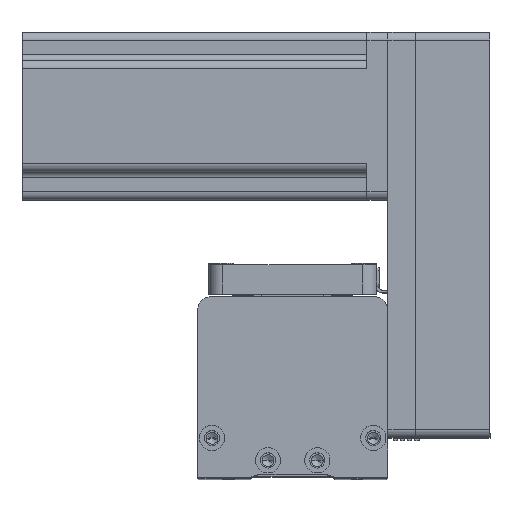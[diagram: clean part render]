
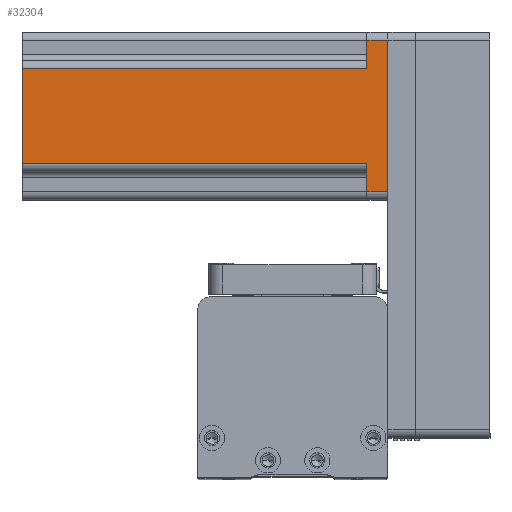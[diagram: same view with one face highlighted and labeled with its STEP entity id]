
A CAD part, top view. The second image highlights one B-rep face of the part: STEP entity #32304.
In plain terms, the highlighted planar face has unit normal (0, 0, 1) as drawn and (0, -1, 0) by its records, which use the part's own axes.
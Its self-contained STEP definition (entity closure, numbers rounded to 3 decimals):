
#336 = VERTEX_POINT ( 'NONE', #8669 ) ;
#579 = CARTESIAN_POINT ( 'NONE',  ( 27., -30., 0. ) ) ;
#1299 = LINE ( 'NONE', #27244, #35634 ) ;
#1680 = CARTESIAN_POINT ( 'NONE',  ( -17., -30., 130.7 ) ) ;
#1693 = EDGE_CURVE ( 'NONE', #336, #24647, #36500, .T. ) ;
#1801 = CARTESIAN_POINT ( 'NONE',  ( 30., -30., 130.7 ) ) ;
#2800 = CARTESIAN_POINT ( 'NONE',  ( 27., -30., 130.7 ) ) ;
#2826 = CARTESIAN_POINT ( 'NONE',  ( 17., -30., 7.5 ) ) ;
#3917 = DIRECTION ( 'NONE',  ( 1., 0., 0. ) ) ;
#4581 = VERTEX_POINT ( 'NONE', #23914 ) ;
#5163 = DIRECTION ( 'NONE',  ( -1., 0., 0. ) ) ;
#5700 = ORIENTED_EDGE ( 'NONE', *, *, #11654, .T. ) ;
#5929 = AXIS2_PLACEMENT_3D ( 'NONE', #1801, #25096, #5163 ) ;
#6502 = DIRECTION ( 'NONE',  ( 1., 0., 0. ) ) ;
#6592 = ORIENTED_EDGE ( 'NONE', *, *, #1693, .T. ) ;
#7592 = CARTESIAN_POINT ( 'NONE',  ( -20., -30., 7.5 ) ) ;
#8088 = LINE ( 'NONE', #7592, #42400 ) ;
#8669 = CARTESIAN_POINT ( 'NONE',  ( -27., -30., 0. ) ) ;
#8733 = VERTEX_POINT ( 'NONE', #2826 ) ;
#10613 = CARTESIAN_POINT ( 'NONE',  ( 17., -30., 130.7 ) ) ;
#11654 = EDGE_CURVE ( 'NONE', #16118, #4581, #1299, .T. ) ;
#11720 = EDGE_CURVE ( 'NONE', #33509, #4581, #8088, .T. ) ;
#12543 = EDGE_CURVE ( 'NONE', #8733, #23540, #20982, .T. ) ;
#14689 = EDGE_CURVE ( 'NONE', #20108, #8733, #28403, .T. ) ;
#15082 = CARTESIAN_POINT ( 'NONE',  ( 30., -30., 0. ) ) ;
#15724 = LINE ( 'NONE', #35407, #24606 ) ;
#15772 = LINE ( 'NONE', #23687, #33507 ) ;
#15820 = EDGE_LOOP ( 'NONE', ( #22357, #5700, #23764, #34482, #6592, #39318, #36860, #19700 ) ) ;
#16118 = VERTEX_POINT ( 'NONE', #1680 ) ;
#16839 = EDGE_CURVE ( 'NONE', #24647, #20108, #27621, .T. ) ;
#18740 = EDGE_CURVE ( 'NONE', #16118, #23540, #15772, .T. ) ;
#18804 = VECTOR ( 'NONE', #6502, 1000. ) ;
#19004 = EDGE_CURVE ( 'NONE', #33509, #336, #15724, .T. ) ;
#19508 = VECTOR ( 'NONE', #29133, 1000. ) ;
#19700 = ORIENTED_EDGE ( 'NONE', *, *, #12543, .T. ) ;
#20108 = VERTEX_POINT ( 'NONE', #21373 ) ;
#20982 = LINE ( 'NONE', #25192, #37637 ) ;
#21373 = CARTESIAN_POINT ( 'NONE',  ( 27., -30., 7.5 ) ) ;
#22357 = ORIENTED_EDGE ( 'NONE', *, *, #18740, .F. ) ;
#22438 = CARTESIAN_POINT ( 'NONE',  ( -27., -30., 7.5 ) ) ;
#23540 = VERTEX_POINT ( 'NONE', #10613 ) ;
#23687 = CARTESIAN_POINT ( 'NONE',  ( 30., -30., 130.7 ) ) ;
#23764 = ORIENTED_EDGE ( 'NONE', *, *, #11720, .F. ) ;
#23914 = CARTESIAN_POINT ( 'NONE',  ( -17., -30., 7.5 ) ) ;
#24193 = DIRECTION ( 'NONE',  ( 1., 0., 0. ) ) ;
#24606 = VECTOR ( 'NONE', #38762, 1000. ) ;
#24647 = VERTEX_POINT ( 'NONE', #579 ) ;
#25096 = DIRECTION ( 'NONE',  ( 0., 1., 0. ) ) ;
#25192 = CARTESIAN_POINT ( 'NONE',  ( 17., -30., 130.7 ) ) ;
#26041 = DIRECTION ( 'NONE',  ( 0., 0., 1. ) ) ;
#27244 = CARTESIAN_POINT ( 'NONE',  ( -17., -30., 130.7 ) ) ;
#27621 = LINE ( 'NONE', #2800, #28667 ) ;
#28403 = LINE ( 'NONE', #42180, #19508 ) ;
#28667 = VECTOR ( 'NONE', #26041, 1000. ) ;
#29133 = DIRECTION ( 'NONE',  ( -1., 0., 0. ) ) ;
#31664 = PLANE ( 'NONE',  #5929 ) ;
#32304 = ADVANCED_FACE ( 'NONE', ( #41625 ), #31664, .F. ) ;
#33507 = VECTOR ( 'NONE', #3917, 1000. ) ;
#33509 = VERTEX_POINT ( 'NONE', #22438 ) ;
#34482 = ORIENTED_EDGE ( 'NONE', *, *, #19004, .T. ) ;
#35407 = CARTESIAN_POINT ( 'NONE',  ( -27., -30., 130.7 ) ) ;
#35634 = VECTOR ( 'NONE', #37257, 1000. ) ;
#36500 = LINE ( 'NONE', #15082, #18804 ) ;
#36860 = ORIENTED_EDGE ( 'NONE', *, *, #14689, .T. ) ;
#37257 = DIRECTION ( 'NONE',  ( 0., 0., -1. ) ) ;
#37637 = VECTOR ( 'NONE', #41770, 1000. ) ;
#38762 = DIRECTION ( 'NONE',  ( 0., 0., -1. ) ) ;
#39318 = ORIENTED_EDGE ( 'NONE', *, *, #16839, .T. ) ;
#41625 = FACE_OUTER_BOUND ( 'NONE', #15820, .T. ) ;
#41770 = DIRECTION ( 'NONE',  ( 0., 0., 1. ) ) ;
#42180 = CARTESIAN_POINT ( 'NONE',  ( 20., -30., 7.5 ) ) ;
#42400 = VECTOR ( 'NONE', #24193, 1000. ) ;
